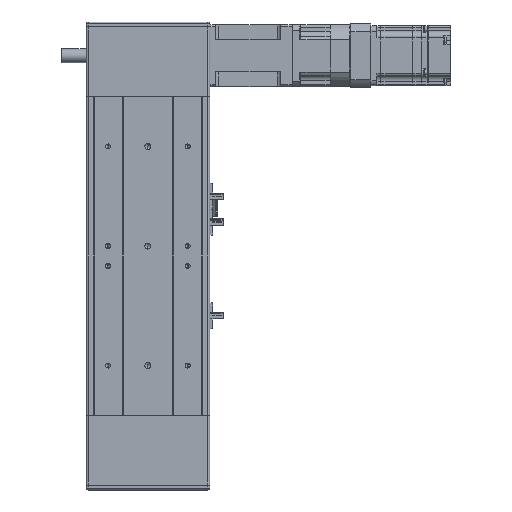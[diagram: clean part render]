
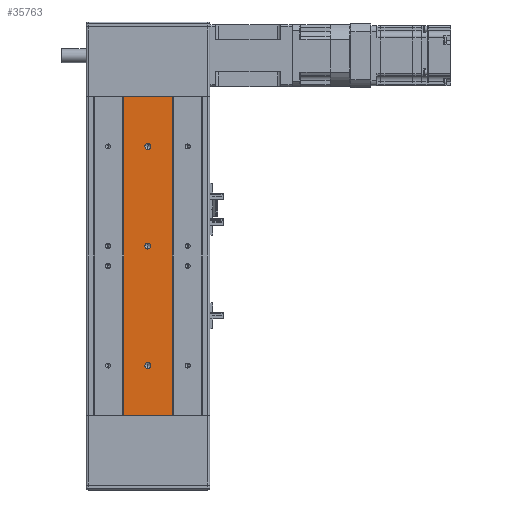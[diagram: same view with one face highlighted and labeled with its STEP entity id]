
A CAD part, front view. The second image highlights one B-rep face of the part: STEP entity #35763.
In plain terms, the highlighted planar face has unit normal (0, -1, 0).
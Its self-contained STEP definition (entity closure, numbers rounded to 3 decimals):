
#17258 = VERTEX_POINT ( 'NONE', #74781 ) ;
#17268 = VERTEX_POINT ( 'NONE', #74818 ) ;
#17294 = VERTEX_POINT ( 'NONE', #74749 ) ;
#17306 = VERTEX_POINT ( 'NONE', #74933 ) ;
#17309 = VERTEX_POINT ( 'NONE', #74848 ) ;
#17315 = VERTEX_POINT ( 'NONE', #74862 ) ;
#17524 = VERTEX_POINT ( 'NONE', #70196 ) ;
#17592 = VERTEX_POINT ( 'NONE', #70270 ) ;
#17620 = VERTEX_POINT ( 'NONE', #70252 ) ;
#17683 = VERTEX_POINT ( 'NONE', #70309 ) ;
#17965 = AXIS2_PLACEMENT_3D ( 'NONE', #25552, #25618, #25544 ) ;
#17971 = AXIS2_PLACEMENT_3D ( 'NONE', #25671, #25703, #25652 ) ;
#18004 = AXIS2_PLACEMENT_3D ( 'NONE', #25916, #25857, #25909 ) ;
#25369 = CARTESIAN_POINT ( 'NONE',  ( 0., -42., -160. ) ) ;
#25378 = DIRECTION ( 'NONE',  ( -1., 0., 0. ) ) ;
#25544 = DIRECTION ( 'NONE',  ( 0., 0., -1. ) ) ;
#25552 = CARTESIAN_POINT ( 'NONE',  ( 0., -42., -110. ) ) ;
#25596 = CARTESIAN_POINT ( 'NONE',  ( -24.5, -42., 160. ) ) ;
#25600 = DIRECTION ( 'NONE',  ( 0., 0., -1. ) ) ;
#25618 = DIRECTION ( 'NONE',  ( 0., -1., 0. ) ) ;
#25652 = DIRECTION ( 'NONE',  ( 0., 0., -1. ) ) ;
#25671 = CARTESIAN_POINT ( 'NONE',  ( 0., -42., 10. ) ) ;
#25678 = DIRECTION ( 'NONE',  ( 0., 0., -1. ) ) ;
#25703 = DIRECTION ( 'NONE',  ( 0., -1., 0. ) ) ;
#25712 = CARTESIAN_POINT ( 'NONE',  ( 24.5, -42., 160. ) ) ;
#25857 = DIRECTION ( 'NONE',  ( 0., -1., 0. ) ) ;
#25909 = DIRECTION ( 'NONE',  ( 0., 0., -1. ) ) ;
#25916 = CARTESIAN_POINT ( 'NONE',  ( 0., -42., 110. ) ) ;
#26197 = CARTESIAN_POINT ( 'NONE',  ( 0., -42., 160. ) ) ;
#26199 = DIRECTION ( 'NONE',  ( -1., 0., 0. ) ) ;
#26638 = VECTOR ( 'NONE', #25600, 1000. ) ;
#26648 = VECTOR ( 'NONE', #25678, 1000. ) ;
#26658 = LINE ( 'NONE', #25596, #26638 ) ;
#26736 = LINE ( 'NONE', #25712, #26648 ) ;
#26738 = CIRCLE ( 'NONE', #17971, 3. ) ;
#26762 = CIRCLE ( 'NONE', #17965, 3. ) ;
#26838 = CIRCLE ( 'NONE', #18004, 3. ) ;
#27038 = LINE ( 'NONE', #26197, #27074 ) ;
#27074 = VECTOR ( 'NONE', #26199, 1000. ) ;
#28432 = LINE ( 'NONE', #25369, #28447 ) ;
#28447 = VECTOR ( 'NONE', #25378, 1000. ) ;
#29927 = EDGE_CURVE ( 'NONE', #17294, #17306, #49451, .T. ) ;
#29970 = EDGE_CURVE ( 'NONE', #17309, #17268, #33066, .T. ) ;
#29980 = EDGE_CURVE ( 'NONE', #17315, #17258, #33042, .T. ) ;
#33042 = CIRCLE ( 'NONE', #61407, 3. ) ;
#33066 = CIRCLE ( 'NONE', #61405, 3. ) ;
#35763 = ADVANCED_FACE ( 'NONE', ( #67554, #67560, #67558, #67518 ), #81912, .T. ) ;
#43990 = ORIENTED_EDGE ( 'NONE', *, *, #79925, .T. ) ;
#44004 = ORIENTED_EDGE ( 'NONE', *, *, #79851, .F. ) ;
#44029 = ORIENTED_EDGE ( 'NONE', *, *, #80051, .F. ) ;
#44031 = ORIENTED_EDGE ( 'NONE', *, *, #29980, .F. ) ;
#45708 = ORIENTED_EDGE ( 'NONE', *, *, #29927, .F. ) ;
#45716 = ORIENTED_EDGE ( 'NONE', *, *, #29970, .F. ) ;
#45755 = ORIENTED_EDGE ( 'NONE', *, *, #79964, .F. ) ;
#45766 = ORIENTED_EDGE ( 'NONE', *, *, #79935, .F. ) ;
#45787 = ORIENTED_EDGE ( 'NONE', *, *, #80242, .T. ) ;
#45788 = ORIENTED_EDGE ( 'NONE', *, *, #79951, .F. ) ;
#47237 = EDGE_LOOP ( 'NONE', ( #44004, #45788, #45787, #43990 ) ) ;
#47336 = CARTESIAN_POINT ( 'NONE',  ( 0., -42., -110. ) ) ;
#47342 = DIRECTION ( 'NONE',  ( 0., -1., 0. ) ) ;
#47345 = DIRECTION ( 'NONE',  ( 0., 0., -1. ) ) ;
#47387 = EDGE_LOOP ( 'NONE', ( #45755, #45716 ) ) ;
#47394 = EDGE_LOOP ( 'NONE', ( #45766, #45708 ) ) ;
#47400 = EDGE_LOOP ( 'NONE', ( #44029, #44031 ) ) ;
#48138 = DIRECTION ( 'NONE',  ( 0., -1., 0. ) ) ;
#48244 = CARTESIAN_POINT ( 'NONE',  ( 0., -42., 10. ) ) ;
#48268 = DIRECTION ( 'NONE',  ( 0., 0., -1. ) ) ;
#48280 = CARTESIAN_POINT ( 'NONE',  ( 0., -42., 110. ) ) ;
#48288 = DIRECTION ( 'NONE',  ( 0., 0., -1. ) ) ;
#48370 = DIRECTION ( 'NONE',  ( 0., -1., 0. ) ) ;
#49451 = CIRCLE ( 'NONE', #61435, 3. ) ;
#59105 = AXIS2_PLACEMENT_3D ( 'NONE', #81915, #81950, #81958 ) ;
#61405 = AXIS2_PLACEMENT_3D ( 'NONE', #48244, #48138, #48268 ) ;
#61407 = AXIS2_PLACEMENT_3D ( 'NONE', #48280, #48370, #48288 ) ;
#61435 = AXIS2_PLACEMENT_3D ( 'NONE', #47336, #47342, #47345 ) ;
#67518 = FACE_OUTER_BOUND ( 'NONE', #47237, .T. ) ;
#67554 = FACE_BOUND ( 'NONE', #47387, .T. ) ;
#67558 = FACE_BOUND ( 'NONE', #47394, .T. ) ;
#67560 = FACE_BOUND ( 'NONE', #47400, .T. ) ;
#70196 = CARTESIAN_POINT ( 'NONE',  ( -24.5, -42., -160. ) ) ;
#70252 = CARTESIAN_POINT ( 'NONE',  ( 24.5, -42., 160. ) ) ;
#70270 = CARTESIAN_POINT ( 'NONE',  ( 24.5, -42., -160. ) ) ;
#70309 = CARTESIAN_POINT ( 'NONE',  ( -24.5, -42., 160. ) ) ;
#74749 = CARTESIAN_POINT ( 'NONE',  ( 0., -42., -107. ) ) ;
#74781 = CARTESIAN_POINT ( 'NONE',  ( 0., -42., 107. ) ) ;
#74818 = CARTESIAN_POINT ( 'NONE',  ( 0., -42., 7. ) ) ;
#74848 = CARTESIAN_POINT ( 'NONE',  ( 0., -42., 13. ) ) ;
#74862 = CARTESIAN_POINT ( 'NONE',  ( 0., -42., 113. ) ) ;
#74933 = CARTESIAN_POINT ( 'NONE',  ( 0., -42., -113. ) ) ;
#79851 = EDGE_CURVE ( 'NONE', #17592, #17524, #28432, .T. ) ;
#79925 = EDGE_CURVE ( 'NONE', #17683, #17524, #26658, .T. ) ;
#79935 = EDGE_CURVE ( 'NONE', #17306, #17294, #26762, .T. ) ;
#79951 = EDGE_CURVE ( 'NONE', #17620, #17592, #26736, .T. ) ;
#79964 = EDGE_CURVE ( 'NONE', #17268, #17309, #26738, .T. ) ;
#80051 = EDGE_CURVE ( 'NONE', #17258, #17315, #26838, .T. ) ;
#80242 = EDGE_CURVE ( 'NONE', #17620, #17683, #27038, .T. ) ;
#81912 = PLANE ( 'NONE',  #59105 ) ;
#81915 = CARTESIAN_POINT ( 'NONE',  ( 0., -42., 160. ) ) ;
#81950 = DIRECTION ( 'NONE',  ( 0., -1., 0. ) ) ;
#81958 = DIRECTION ( 'NONE',  ( 0., 0., -1. ) ) ;
